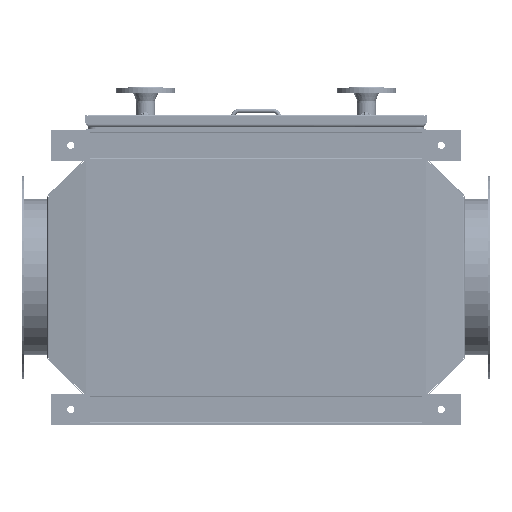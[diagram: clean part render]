
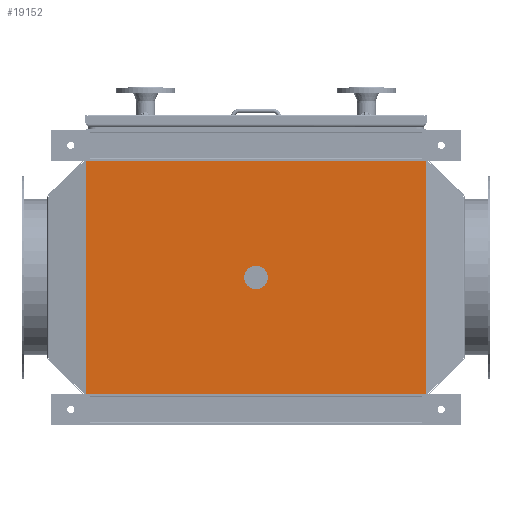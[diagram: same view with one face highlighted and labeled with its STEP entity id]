
A CAD part, front view. The second image highlights one B-rep face of the part: STEP entity #19152.
In plain terms, the highlighted planar face has unit normal (0, -1, 0).
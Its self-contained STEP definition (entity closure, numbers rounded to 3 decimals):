
#2103 = DIRECTION ( 'NONE',  ( 0., 0., 1. ) ) ;
#3923 = EDGE_CURVE ( 'NONE', #39637, #50882, #16943, .T. ) ;
#4299 = LINE ( 'NONE', #12868, #18502 ) ;
#5592 = CARTESIAN_POINT ( 'NONE',  ( 0., -3., 30.15 ) ) ;
#6507 = DIRECTION ( 'NONE',  ( 0., -1., 0. ) ) ;
#6794 = CARTESIAN_POINT ( 'NONE',  ( 435., -3., 298.5 ) ) ;
#7862 = EDGE_LOOP ( 'NONE', ( #48545, #21580, #12987, #17179 ) ) ;
#8227 = CARTESIAN_POINT ( 'NONE',  ( -435., -3., 298.5 ) ) ;
#8675 = DIRECTION ( 'NONE',  ( 0., 0., 1. ) ) ;
#12471 = FACE_BOUND ( 'NONE', #38025, .T. ) ;
#12868 = CARTESIAN_POINT ( 'NONE',  ( -435., -3., 298.5 ) ) ;
#12987 = ORIENTED_EDGE ( 'NONE', *, *, #50312, .F. ) ;
#13052 = EDGE_CURVE ( 'NONE', #39322, #58851, #30892, .T. ) ;
#13206 = AXIS2_PLACEMENT_3D ( 'NONE', #32281, #27113, #8675 ) ;
#15937 = CARTESIAN_POINT ( 'NONE',  ( -435., -3., -298.5 ) ) ;
#16943 = LINE ( 'NONE', #42610, #31087 ) ;
#17179 = ORIENTED_EDGE ( 'NONE', *, *, #59043, .F. ) ;
#17325 = AXIS2_PLACEMENT_3D ( 'NONE', #21081, #30666, #2103 ) ;
#18456 = EDGE_CURVE ( 'NONE', #50882, #31578, #60363, .T. ) ;
#18502 = VECTOR ( 'NONE', #55664, 1000. ) ;
#19152 = ADVANCED_FACE ( 'NONE', ( #12471, #41655 ), #40122, .T. ) ;
#20981 = CARTESIAN_POINT ( 'NONE',  ( 435., -3., -298.5 ) ) ;
#21081 = CARTESIAN_POINT ( 'NONE',  ( 0., -3., 0. ) ) ;
#21580 = ORIENTED_EDGE ( 'NONE', *, *, #3923, .F. ) ;
#24188 = LINE ( 'NONE', #39789, #26430 ) ;
#25850 = EDGE_CURVE ( 'NONE', #58851, #39322, #39426, .T. ) ;
#26430 = VECTOR ( 'NONE', #34169, 1000. ) ;
#27113 = DIRECTION ( 'NONE',  ( 0., 1., 0. ) ) ;
#30259 = AXIS2_PLACEMENT_3D ( 'NONE', #45355, #6507, #31141 ) ;
#30350 = CARTESIAN_POINT ( 'NONE',  ( 435., -3., 298.5 ) ) ;
#30666 = DIRECTION ( 'NONE',  ( 0., 1., 0. ) ) ;
#30892 = CIRCLE ( 'NONE', #13206, 30.15 ) ;
#31087 = VECTOR ( 'NONE', #47609, 1000. ) ;
#31141 = DIRECTION ( 'NONE',  ( 0., 0., -1. ) ) ;
#31578 = VERTEX_POINT ( 'NONE', #20981 ) ;
#32281 = CARTESIAN_POINT ( 'NONE',  ( 0., -3., 0. ) ) ;
#32819 = ORIENTED_EDGE ( 'NONE', *, *, #25850, .T. ) ;
#34169 = DIRECTION ( 'NONE',  ( -1., 0., 0. ) ) ;
#35620 = DIRECTION ( 'NONE',  ( 0., 0., -1. ) ) ;
#38025 = EDGE_LOOP ( 'NONE', ( #47532, #32819 ) ) ;
#39322 = VERTEX_POINT ( 'NONE', #5592 ) ;
#39426 = CIRCLE ( 'NONE', #17325, 30.15 ) ;
#39637 = VERTEX_POINT ( 'NONE', #8227 ) ;
#39789 = CARTESIAN_POINT ( 'NONE',  ( -435., -3., -298.5 ) ) ;
#40122 = PLANE ( 'NONE',  #30259 ) ;
#41655 = FACE_OUTER_BOUND ( 'NONE', #7862, .T. ) ;
#42610 = CARTESIAN_POINT ( 'NONE',  ( -435., -3., 298.5 ) ) ;
#45355 = CARTESIAN_POINT ( 'NONE',  ( 0., -3., 0. ) ) ;
#46331 = CARTESIAN_POINT ( 'NONE',  ( 0., -3., -30.15 ) ) ;
#47532 = ORIENTED_EDGE ( 'NONE', *, *, #13052, .T. ) ;
#47609 = DIRECTION ( 'NONE',  ( 1., 0., 0. ) ) ;
#47686 = VECTOR ( 'NONE', #35620, 1000. ) ;
#48545 = ORIENTED_EDGE ( 'NONE', *, *, #18456, .F. ) ;
#50312 = EDGE_CURVE ( 'NONE', #58029, #39637, #4299, .T. ) ;
#50882 = VERTEX_POINT ( 'NONE', #30350 ) ;
#55664 = DIRECTION ( 'NONE',  ( 0., 0., 1. ) ) ;
#58029 = VERTEX_POINT ( 'NONE', #15937 ) ;
#58851 = VERTEX_POINT ( 'NONE', #46331 ) ;
#59043 = EDGE_CURVE ( 'NONE', #31578, #58029, #24188, .T. ) ;
#60363 = LINE ( 'NONE', #6794, #47686 ) ;
